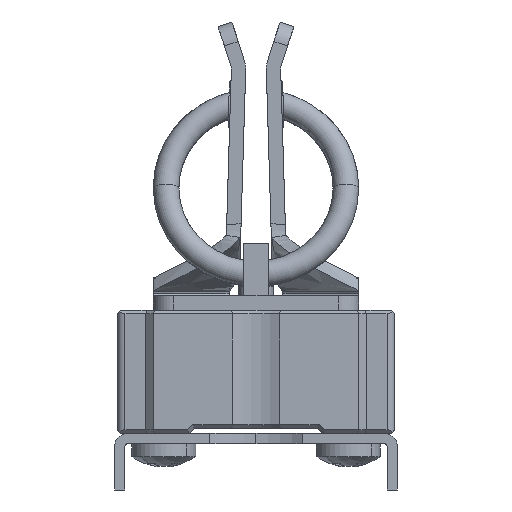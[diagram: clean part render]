
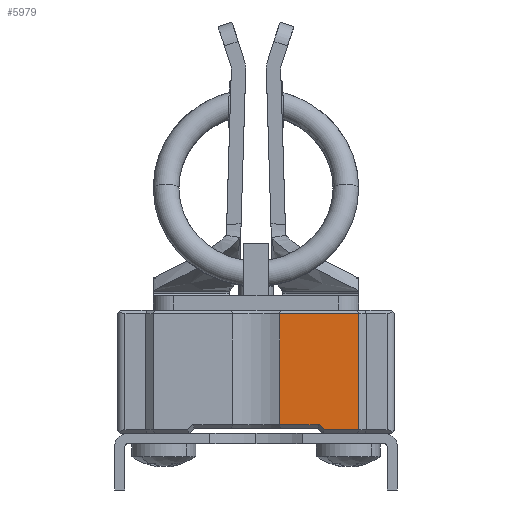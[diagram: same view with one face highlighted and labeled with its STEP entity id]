
A CAD part, left-side view. The second image highlights one B-rep face of the part: STEP entity #5979.
In plain terms, the highlighted planar face has unit normal (-1, 0, 0).
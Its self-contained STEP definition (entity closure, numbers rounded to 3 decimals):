
#5872 = EDGE_CURVE ( 'NONE', #5873, #5874, #17644, .T. ) ;
#5873 = VERTEX_POINT ( 'NONE', #17640 ) ;
#5874 = VERTEX_POINT ( 'NONE', #17639 ) ;
#5875 = ORIENTED_EDGE ( 'NONE', *, *, #5876, .T. ) ;
#5876 = EDGE_CURVE ( 'NONE', #5874, #5877, #17638, .T. ) ;
#5877 = VERTEX_POINT ( 'NONE', #17634 ) ;
#5878 = ORIENTED_EDGE ( 'NONE', *, *, #5879, .T. ) ;
#5879 = EDGE_CURVE ( 'NONE', #5877, #5880, #17633, .T. ) ;
#5880 = VERTEX_POINT ( 'NONE', #17629 ) ;
#5881 = ORIENTED_EDGE ( 'NONE', *, *, #5882, .T. ) ;
#5882 = EDGE_CURVE ( 'NONE', #5880, #5883, #17694, .T. ) ;
#5883 = VERTEX_POINT ( 'NONE', #17690 ) ;
#5884 = ORIENTED_EDGE ( 'NONE', *, *, #5885, .T. ) ;
#5885 = EDGE_CURVE ( 'NONE', #5883, #5886, #17689, .T. ) ;
#5886 = VERTEX_POINT ( 'NONE', #17685 ) ;
#5887 = ORIENTED_EDGE ( 'NONE', *, *, #5944, .T. ) ;
#5944 = EDGE_CURVE ( 'NONE', #5886, #5873, #17793, .T. ) ;
#5979 = ADVANCED_FACE ( 'NONE', ( #17921 ), #17901, .F. ) ;
#5980 = EDGE_LOOP ( 'NONE', ( #5981, #5875, #5878, #5881, #5884, #5887 ) ) ;
#5981 = ORIENTED_EDGE ( 'NONE', *, *, #5872, .T. ) ;
#17629 = CARTESIAN_POINT ( 'NONE',  ( -2., 7.5, 23.3 ) ) ;
#17630 = DIRECTION ( 'NONE',  ( 0., 0., 1. ) ) ;
#17631 = VECTOR ( 'NONE', #17630, 1000. ) ;
#17632 = CARTESIAN_POINT ( 'NONE',  ( -2., 7.5, 0. ) ) ;
#17633 = LINE ( 'NONE', #17632, #17631 ) ;
#17634 = CARTESIAN_POINT ( 'NONE',  ( -2., 7.5, 0.7 ) ) ;
#17635 = DIRECTION ( 'NONE',  ( 0., -1., 0. ) ) ;
#17636 = VECTOR ( 'NONE', #17635, 1000. ) ;
#17637 = CARTESIAN_POINT ( 'NONE',  ( -2., 47.5, 0.7 ) ) ;
#17638 = LINE ( 'NONE', #17637, #17636 ) ;
#17639 = CARTESIAN_POINT ( 'NONE',  ( -2., 14.21, 0.7 ) ) ;
#17640 = CARTESIAN_POINT ( 'NONE',  ( -2., 15.21, 1.7 ) ) ;
#17641 = DIRECTION ( 'NONE',  ( 0., -0.707, -0.707 ) ) ;
#17642 = VECTOR ( 'NONE', #17641, 1000. ) ;
#17643 = CARTESIAN_POINT ( 'NONE',  ( -2., 14.005, 0.495 ) ) ;
#17644 = LINE ( 'NONE', #17643, #17642 ) ;
#17685 = CARTESIAN_POINT ( 'NONE',  ( -2., 22.917, 1.7 ) ) ;
#17686 = DIRECTION ( 'NONE',  ( 0., 0., -1. ) ) ;
#17687 = VECTOR ( 'NONE', #17686, 1000. ) ;
#17688 = CARTESIAN_POINT ( 'NONE',  ( -2., 22.917, 24. ) ) ;
#17689 = LINE ( 'NONE', #17688, #17687 ) ;
#17690 = CARTESIAN_POINT ( 'NONE',  ( -2., 22.917, 23.3 ) ) ;
#17691 = DIRECTION ( 'NONE',  ( 0., 1., 0. ) ) ;
#17692 = VECTOR ( 'NONE', #17691, 1000. ) ;
#17693 = CARTESIAN_POINT ( 'NONE',  ( -2., 22.917, 23.3 ) ) ;
#17694 = LINE ( 'NONE', #17693, #17692 ) ;
#17790 = DIRECTION ( 'NONE',  ( 0., -1., 0. ) ) ;
#17791 = VECTOR ( 'NONE', #17790, 1000. ) ;
#17792 = CARTESIAN_POINT ( 'NONE',  ( -2., 47.5, 1.7 ) ) ;
#17793 = LINE ( 'NONE', #17792, #17791 ) ;
#17897 = DIRECTION ( 'NONE',  ( 0., 0., 1. ) ) ;
#17898 = DIRECTION ( 'NONE',  ( 1., 0., 0. ) ) ;
#17899 = CARTESIAN_POINT ( 'NONE',  ( -2., 47.5, 0. ) ) ;
#17900 = AXIS2_PLACEMENT_3D ( 'NONE', #17899, #17898, #17897 ) ;
#17901 = PLANE ( 'NONE',  #17900 ) ;
#17921 = FACE_OUTER_BOUND ( 'NONE', #5980, .T. ) ;
